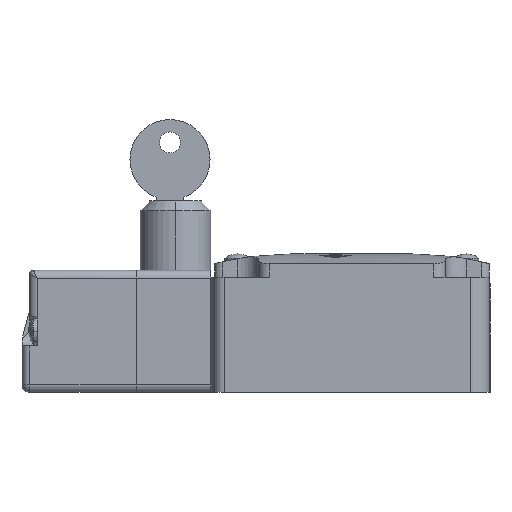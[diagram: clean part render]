
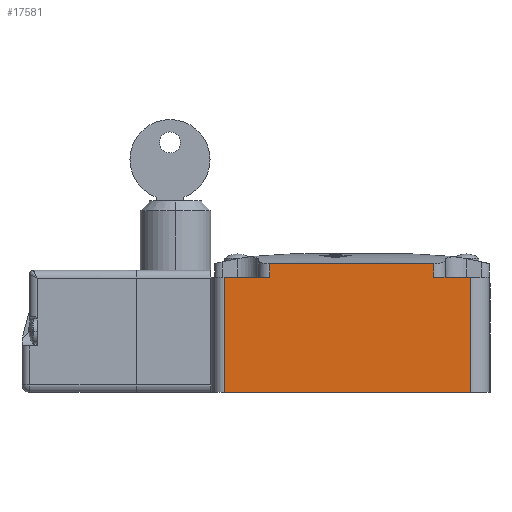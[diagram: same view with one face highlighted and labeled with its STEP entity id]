
A CAD part, left-side view. The second image highlights one B-rep face of the part: STEP entity #17581.
In plain terms, the highlighted planar face has unit normal (-1, 0, 0) as drawn and (1, 0, 0) by its records, which use the part's own axes.
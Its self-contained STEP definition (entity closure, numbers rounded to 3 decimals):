
#261 = EDGE_CURVE ( 'NONE', #3747, #5370, #10190, .T. ) ;
#621 = CARTESIAN_POINT ( 'NONE',  ( 20., -31., -21.3 ) ) ;
#822 = ORIENTED_EDGE ( 'NONE', *, *, #12809, .T. ) ;
#1075 = DIRECTION ( 'NONE',  ( 0., 0., -1. ) ) ;
#1727 = ORIENTED_EDGE ( 'NONE', *, *, #20396, .F. ) ;
#2338 = VECTOR ( 'NONE', #17728, 1000. ) ;
#2554 = EDGE_CURVE ( 'NONE', #7595, #17007, #6901, .T. ) ;
#3231 = CARTESIAN_POINT ( 'NONE',  ( 20., -31., -15.2 ) ) ;
#3380 = EDGE_CURVE ( 'NONE', #8088, #9342, #12820, .T. ) ;
#3747 = VERTEX_POINT ( 'NONE', #12585 ) ;
#3778 = PLANE ( 'NONE',  #9402 ) ;
#4389 = VECTOR ( 'NONE', #16699, 1000. ) ;
#4532 = DIRECTION ( 'NONE',  ( 0., 0., 1. ) ) ;
#4698 = ORIENTED_EDGE ( 'NONE', *, *, #261, .T. ) ;
#5370 = VERTEX_POINT ( 'NONE', #17463 ) ;
#5397 = CARTESIAN_POINT ( 'NONE',  ( 20., -21.5, -15.2 ) ) ;
#5774 = EDGE_LOOP ( 'NONE', ( #4698, #1727, #11114, #13930, #10734, #5810, #12865, #822 ) ) ;
#5810 = ORIENTED_EDGE ( 'NONE', *, *, #15560, .F. ) ;
#6901 = LINE ( 'NONE', #8927, #14837 ) ;
#7022 = VECTOR ( 'NONE', #1075, 1000. ) ;
#7269 = VECTOR ( 'NONE', #4532, 1000. ) ;
#7332 = DIRECTION ( 'NONE',  ( 0., 1., 0. ) ) ;
#7595 = VERTEX_POINT ( 'NONE', #13033 ) ;
#7666 = CARTESIAN_POINT ( 'NONE',  ( 20., 33.325, -15.2 ) ) ;
#8088 = VERTEX_POINT ( 'NONE', #5397 ) ;
#8535 = DIRECTION ( 'NONE',  ( 0., 1., 0. ) ) ;
#8631 = LINE ( 'NONE', #14539, #9131 ) ;
#8927 = CARTESIAN_POINT ( 'NONE',  ( 20., -31., 15. ) ) ;
#9131 = VECTOR ( 'NONE', #19203, 1000. ) ;
#9208 = LINE ( 'NONE', #14637, #17117 ) ;
#9342 = VERTEX_POINT ( 'NONE', #3231 ) ;
#9402 = AXIS2_PLACEMENT_3D ( 'NONE', #621, #18008, #8535 ) ;
#10044 = VERTEX_POINT ( 'NONE', #16748 ) ;
#10190 = LINE ( 'NONE', #15246, #18069 ) ;
#10387 = EDGE_CURVE ( 'NONE', #19435, #10044, #18627, .T. ) ;
#10542 = DIRECTION ( 'NONE',  ( 0., 1., 0. ) ) ;
#10734 = ORIENTED_EDGE ( 'NONE', *, *, #2554, .F. ) ;
#11114 = ORIENTED_EDGE ( 'NONE', *, *, #10387, .F. ) ;
#11251 = LINE ( 'NONE', #12201, #7022 ) ;
#12201 = CARTESIAN_POINT ( 'NONE',  ( 20., 21.5, -15.2 ) ) ;
#12363 = CARTESIAN_POINT ( 'NONE',  ( 20., 33.325, -21.3 ) ) ;
#12585 = CARTESIAN_POINT ( 'NONE',  ( 20., -21.5, -18.76 ) ) ;
#12809 = EDGE_CURVE ( 'NONE', #8088, #3747, #9208, .T. ) ;
#12820 = LINE ( 'NONE', #19781, #4389 ) ;
#12865 = ORIENTED_EDGE ( 'NONE', *, *, #3380, .F. ) ;
#13033 = CARTESIAN_POINT ( 'NONE',  ( 20., -31., 15. ) ) ;
#13309 = FACE_OUTER_BOUND ( 'NONE', #5774, .T. ) ;
#13930 = ORIENTED_EDGE ( 'NONE', *, *, #19972, .T. ) ;
#14539 = CARTESIAN_POINT ( 'NONE',  ( 20., -31., -21.3 ) ) ;
#14637 = CARTESIAN_POINT ( 'NONE',  ( 20., -21.5, -15.2 ) ) ;
#14837 = VECTOR ( 'NONE', #10542, 1000. ) ;
#15246 = CARTESIAN_POINT ( 'NONE',  ( 20., -36.2, -18.76 ) ) ;
#15560 = EDGE_CURVE ( 'NONE', #9342, #7595, #8631, .T. ) ;
#16212 = DIRECTION ( 'NONE',  ( 0., 0., -1. ) ) ;
#16387 = CARTESIAN_POINT ( 'NONE',  ( 20., 33.325, 15. ) ) ;
#16699 = DIRECTION ( 'NONE',  ( 0., -1., 0. ) ) ;
#16748 = CARTESIAN_POINT ( 'NONE',  ( 20., 21.5, -15.2 ) ) ;
#17007 = VERTEX_POINT ( 'NONE', #16387 ) ;
#17117 = VECTOR ( 'NONE', #16212, 1000. ) ;
#17463 = CARTESIAN_POINT ( 'NONE',  ( 20., 21.5, -18.76 ) ) ;
#17581 = ADVANCED_FACE ( 'NONE', ( #13309 ), #3778, .T. ) ;
#17728 = DIRECTION ( 'NONE',  ( 0., -1., 0. ) ) ;
#18008 = DIRECTION ( 'NONE',  ( 1., 0., 0. ) ) ;
#18069 = VECTOR ( 'NONE', #7332, 1000. ) ;
#18627 = LINE ( 'NONE', #19364, #2338 ) ;
#19203 = DIRECTION ( 'NONE',  ( 0., 0., 1. ) ) ;
#19364 = CARTESIAN_POINT ( 'NONE',  ( 20., 37., -15.2 ) ) ;
#19435 = VERTEX_POINT ( 'NONE', #7666 ) ;
#19781 = CARTESIAN_POINT ( 'NONE',  ( 20., -21.5, -15.2 ) ) ;
#19872 = LINE ( 'NONE', #12363, #7269 ) ;
#19972 = EDGE_CURVE ( 'NONE', #19435, #17007, #19872, .T. ) ;
#20396 = EDGE_CURVE ( 'NONE', #10044, #5370, #11251, .T. ) ;
